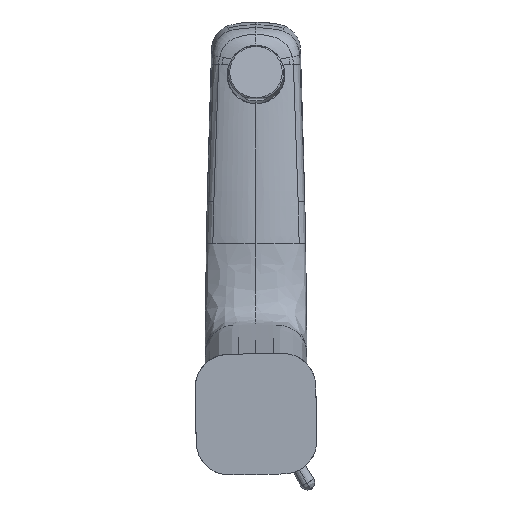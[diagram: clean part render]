
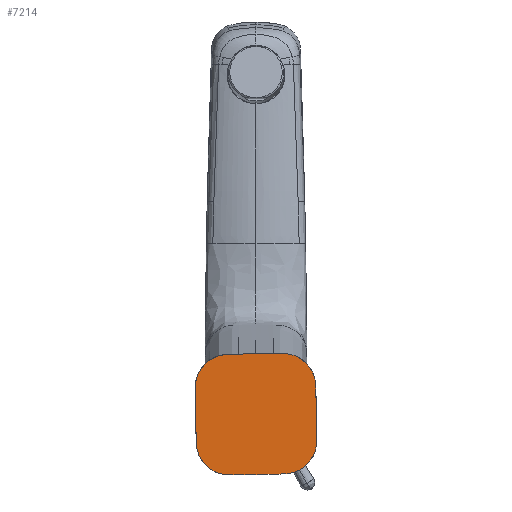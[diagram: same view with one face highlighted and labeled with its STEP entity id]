
A CAD part, front view. The second image highlights one B-rep face of the part: STEP entity #7214.
In plain terms, the highlighted planar face has unit normal (0, -1, 0).
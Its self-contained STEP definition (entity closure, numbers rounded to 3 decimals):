
#389=CARTESIAN_POINT('',(-25.78,4.15,9.332));
#390=CARTESIAN_POINT('',(-25.787,4.15,10.273));
#391=CARTESIAN_POINT('',(-25.8,4.15,11.687));
#392=CARTESIAN_POINT('',(-25.638,4.15,13.564));
#393=CARTESIAN_POINT('',(-25.381,4.15,14.955));
#394=CARTESIAN_POINT('',(-24.969,4.15,16.307));
#395=CARTESIAN_POINT('',(-24.217,4.15,18.036));
#396=CARTESIAN_POINT('',(-22.935,4.15,20.025));
#397=CARTESIAN_POINT('',(-20.986,4.15,22.082));
#398=CARTESIAN_POINT('',(-19.066,4.15,23.465));
#399=CARTESIAN_POINT('',(-17.379,4.15,24.307));
#400=CARTESIAN_POINT('',(-16.05,4.15,24.79));
#401=CARTESIAN_POINT('',(-14.675,4.15,25.121));
#402=CARTESIAN_POINT('',(-12.809,4.15,25.382));
#403=CARTESIAN_POINT('',(-10.455,4.15,25.459));
#404=CARTESIAN_POINT('',(-6.692,4.15,25.554));
#405=CARTESIAN_POINT('',(-3.356,4.15,25.628));
#406=CARTESIAN_POINT('',(-0.961,4.15,25.671));
#407=CARTESIAN_POINT('',(-0.448,4.15,25.68));
#409=CARTESIAN_POINT('',(-0.448,4.15,25.68));
#410=CARTESIAN_POINT('',(0.064,4.15,25.689));
#411=CARTESIAN_POINT('',(2.46,4.15,25.729));
#412=CARTESIAN_POINT('',(5.796,4.15,25.772));
#413=CARTESIAN_POINT('',(9.56,4.15,25.808));
#414=CARTESIAN_POINT('',(11.915,4.15,25.814));
#415=CARTESIAN_POINT('',(13.79,4.15,25.618));
#416=CARTESIAN_POINT('',(15.175,4.15,25.335));
#417=CARTESIAN_POINT('',(16.52,4.15,24.898));
#418=CARTESIAN_POINT('',(18.236,4.15,24.116));
#419=CARTESIAN_POINT('',(20.202,4.15,22.801));
#420=CARTESIAN_POINT('',(22.222,4.15,20.813));
#421=CARTESIAN_POINT('',(23.572,4.15,18.871));
#422=CARTESIAN_POINT('',(24.385,4.15,17.169));
#423=CARTESIAN_POINT('',(24.844,4.15,15.832));
#424=CARTESIAN_POINT('',(25.149,4.15,14.45));
#425=CARTESIAN_POINT('',(25.376,4.15,12.58));
#426=CARTESIAN_POINT('',(25.412,4.15,11.167));
#427=CARTESIAN_POINT('',(25.438,4.15,10.226));
#429=CARTESIAN_POINT('',(25.438,4.15,10.226));
#430=CARTESIAN_POINT('',(25.49,4.15,8.345));
#431=CARTESIAN_POINT('',(25.581,4.15,4.58));
#432=CARTESIAN_POINT('',(25.687,4.15,-1.066));
#433=CARTESIAN_POINT('',(25.748,4.15,-5.688));
#434=CARTESIAN_POINT('',(25.773,4.15,-8.512));
#435=CARTESIAN_POINT('',(25.784,4.15,-9.924));
#436=CARTESIAN_POINT('',(25.788,4.15,-10.949));
#437=CARTESIAN_POINT('',(25.745,4.15,-12.36));
#438=CARTESIAN_POINT('',(25.602,4.15,-13.767));
#439=CARTESIAN_POINT('',(25.319,4.15,-15.152));
#440=CARTESIAN_POINT('',(24.879,4.15,-16.496));
#441=CARTESIAN_POINT('',(24.091,4.15,-18.21));
#442=CARTESIAN_POINT('',(22.776,4.15,-20.175));
#443=CARTESIAN_POINT('',(20.793,4.15,-22.201));
#444=CARTESIAN_POINT('',(18.849,4.15,-23.549));
#445=CARTESIAN_POINT('',(17.145,4.15,-24.357));
#446=CARTESIAN_POINT('',(15.806,4.15,-24.812));
#447=CARTESIAN_POINT('',(14.425,4.15,-25.118));
#448=CARTESIAN_POINT('',(13.024,4.15,-25.292));
#449=CARTESIAN_POINT('',(11.849,4.15,-25.362));
#450=CARTESIAN_POINT('',(10.908,4.15,-25.396));
#451=CARTESIAN_POINT('',(10.437,4.15,-25.409));
#452=CARTESIAN_POINT('',(10.202,4.15,-25.415));
#454=CARTESIAN_POINT('',(-17.037,4.15,975.772));
#455=DIRECTION('',(0.,1.,0.));
#456=DIRECTION('',(0.027,0.,-1.));
#457=AXIS2_PLACEMENT_3D('',#454,#455,#456);
#459=CARTESIAN_POINT('',(-17.028,4.15,975.772));
#460=DIRECTION('',(0.,1.,0.));
#461=DIRECTION('',(0.017,0.,-1.));
#462=AXIS2_PLACEMENT_3D('',#459,#460,#461);
#464=CARTESIAN_POINT('',(-9.309,4.15,-25.755));
#465=CARTESIAN_POINT('',(-9.544,4.15,-25.757));
#466=CARTESIAN_POINT('',(-10.015,4.15,-25.761));
#467=CARTESIAN_POINT('',(-10.956,4.15,-25.76));
#468=CARTESIAN_POINT('',(-12.133,4.15,-25.732));
#469=CARTESIAN_POINT('',(-13.54,4.15,-25.606));
#470=CARTESIAN_POINT('',(-14.931,4.15,-25.349));
#471=CARTESIAN_POINT('',(-16.284,4.15,-24.94));
#472=CARTESIAN_POINT('',(-18.015,4.15,-24.193));
#473=CARTESIAN_POINT('',(-20.005,4.15,-22.913));
#474=CARTESIAN_POINT('',(-22.058,4.15,-20.957));
#475=CARTESIAN_POINT('',(-23.441,4.15,-19.039));
#476=CARTESIAN_POINT('',(-24.288,4.15,-17.355));
#477=CARTESIAN_POINT('',(-24.774,4.15,-16.026));
#478=CARTESIAN_POINT('',(-25.106,4.15,-14.652));
#479=CARTESIAN_POINT('',(-25.298,4.15,-13.251));
#480=CARTESIAN_POINT('',(-25.391,4.15,-11.842));
#481=CARTESIAN_POINT('',(-25.422,4.15,-10.818));
#482=CARTESIAN_POINT('',(-25.46,4.15,-9.406));
#483=CARTESIAN_POINT('',(-25.534,4.15,-6.583));
#484=CARTESIAN_POINT('',(-25.634,4.15,-1.962));
#485=CARTESIAN_POINT('',(-25.726,4.15,3.684));
#486=CARTESIAN_POINT('',(-25.765,4.15,7.45));
#487=CARTESIAN_POINT('',(-25.78,4.15,9.332));
#6276=CARTESIAN_POINT('',(0.447,4.15,
-25.633));
#6277=VERTEX_POINT('',#6276);
#6278=CARTESIAN_POINT('',(10.202,4.15,-25.415));
#6279=VERTEX_POINT('',#6278);
#6280=CARTESIAN_POINT('',(-9.309,4.15,
-25.755));
#6281=VERTEX_POINT('',#6280);
#6282=VERTEX_POINT('',#389);
#6283=VERTEX_POINT('',#407);
#6284=VERTEX_POINT('',#427);
#7198=CARTESIAN_POINT('',(0.,4.15,
0.024));
#7199=DIRECTION('',(0.,1.,0.));
#7200=DIRECTION('',(-0.017,0.,1.));
#7201=AXIS2_PLACEMENT_3D('',#7198,#7199,#7200);
#7202=PLANE('',#7201);
#7204=ORIENTED_EDGE('',*,*,#7203,.T.);
#7206=ORIENTED_EDGE('',*,*,#7205,.T.);
#7208=ORIENTED_EDGE('',*,*,#7207,.T.);
#7209=ORIENTED_EDGE('',*,*,#7178,.T.);
#7210=ORIENTED_EDGE('',*,*,#7193,.T.);
#7211=ORIENTED_EDGE('',*,*,#6684,.T.);
#7212=EDGE_LOOP('',(#7204,#7206,#7208,#7209,#7210,#7211));
#7213=FACE_OUTER_BOUND('',#7212,.F.);
#7214=ADVANCED_FACE('',(#7213),#7202,.F.);
#408=B_SPLINE_CURVE_WITH_KNOTS('',3,(#389,#390,#391,#392,#393,#394,#395,#396,
#397,#398,#399,#400,#401,#402,#403,#404,#405,#406,#407),.UNSPECIFIED.,.F.,.F.,
(4,1,1,1,1,1,1,1,1,1,1,1,1,1,1,1,4),(0.,0.08,0.12,
0.159,0.199,0.239,0.319,
0.399,0.478,0.518,0.558,
0.598,0.638,0.717,0.797,
0.957,1.),.UNSPECIFIED.);
#428=B_SPLINE_CURVE_WITH_KNOTS('',3,(#409,#410,#411,#412,#413,#414,#415,#416,
#417,#418,#419,#420,#421,#422,#423,#424,#425,#426,#427),.UNSPECIFIED.,.F.,.F.,
(4,1,1,1,1,1,1,1,1,1,1,1,1,1,1,1,4),(0.,0.043,0.203,
0.283,0.362,0.402,0.442,
0.482,0.522,0.601,0.681,
0.761,0.801,0.841,0.88,
0.92,1.),.UNSPECIFIED.);
#453=B_SPLINE_CURVE_WITH_KNOTS('',3,(#429,#430,#431,#432,#433,#434,#435,#436,
#437,#438,#439,#440,#441,#442,#443,#444,#445,#446,#447,#448,#449,#450,#451,
#452),.UNSPECIFIED.,.F.,.F.,(4,1,1,1,1,1,1,1,1,1,1,1,1,1,1,1,1,1,1,1,1,4),(0.,
0.125,0.25,0.375,0.432,0.438,0.469,
0.5,0.531,0.563,0.594,0.625,0.688,
0.75,0.813,0.844,0.875,0.906,
0.938,0.969,0.984,1.),.UNSPECIFIED.);
#458=CIRCLE('',#457,1001.558);
#463=CIRCLE('',#462,1001.558);
#488=B_SPLINE_CURVE_WITH_KNOTS('',3,(#464,#465,#466,#467,#468,#469,#470,#471,
#472,#473,#474,#475,#476,#477,#478,#479,#480,#481,#482,#483,#484,#485,#486,
#487),.UNSPECIFIED.,.F.,.F.,(4,1,1,1,1,1,1,1,1,1,1,1,1,1,1,1,1,1,1,1,1,4),(0.,
0.016,0.031,0.063,0.094,
0.125,0.156,0.188,0.25,0.313,0.375,0.406,
0.438,0.469,0.5,0.531,0.563,0.568,0.625,
0.75,0.875,1.),.UNSPECIFIED.);
#6684=EDGE_CURVE('',#6281,#6282,#488,.T.);
#7178=EDGE_CURVE('',#6279,#6277,#458,.T.);
#7193=EDGE_CURVE('',#6277,#6281,#463,.T.);
#7203=EDGE_CURVE('',#6282,#6283,#408,.T.);
#7205=EDGE_CURVE('',#6283,#6284,#428,.T.);
#7207=EDGE_CURVE('',#6284,#6279,#453,.T.);
